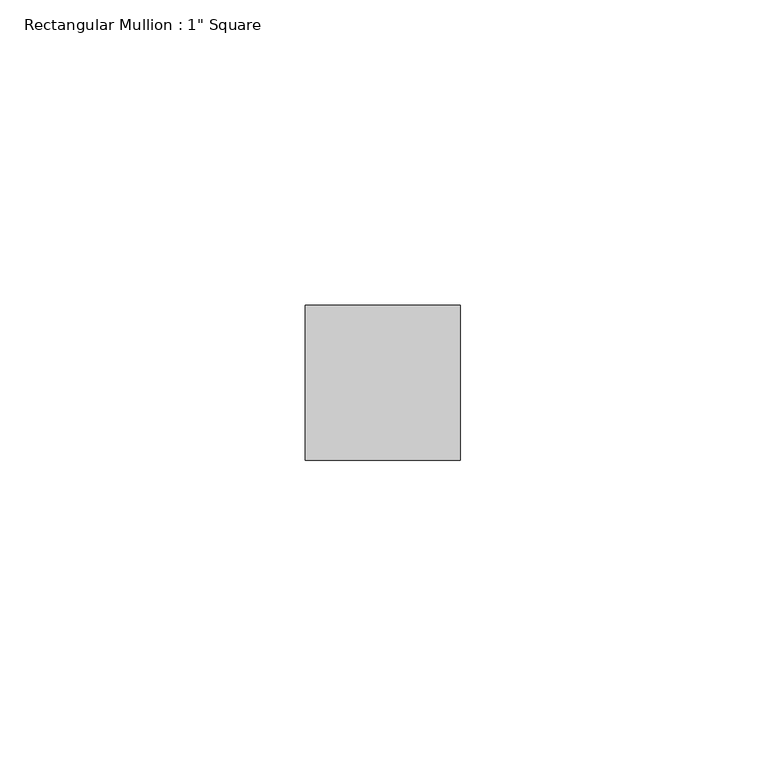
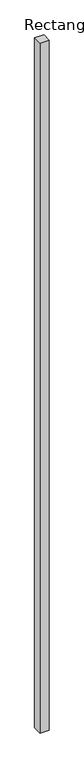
"""IFC4 building model written with IfcOpenShell, lengths in millimetres: member geometry."""

from ifc_helpers import new_model, si_unit, frame, origin, place, context, project, spatial, polyline, outline, extrude, source, transform, mapped, element, save


def member_ee5d5078(model_context):
    return source(origin(), model_context, "Body", "SweptSolid", [
        extrude(outline(polyline([(0.0, 12.7), (0.0, -12.7), (-25.4, -12.7), (-25.4, 12.7), (0.0, 12.7)])), frame((0.0, 0.0, -2007.8079067), z_axis=(0.0, 0.0, 1.0), x_axis=(1.0, 0.0, 0.0)), (0.0, 0.0, 1.0), 2007.8079067),
    ])


if __name__ == "__main__":
    model = new_model("IFC4")
    model_context = context("Model", 3, world=origin())
    ifc_project = project(units=[si_unit("LENGTHUNIT", "METRE", prefix="MILLI")], contexts=[model_context])
    site = spatial("IfcSite", under=ifc_project)
    building = spatial("IfcBuilding", under=site)
    placement = place(None, origin())
    member_shape = member_ee5d5078(model_context)
    element("IfcMember", 1, ObjectType="Rectangular Mullion : 1\" Square", at=placement, inside=building, context=model_context, shape_type="MappedRepresentation", body=[
        mapped(member_shape, transform((0.0, 0.0, 0.0), x_axis=(1.0, 0.0, 0.0), y_axis=(0.0, 1.0, 0.0), z_axis=(0.0, 0.0, 1.0))),
    ])
    save(model, "model.ifc")
